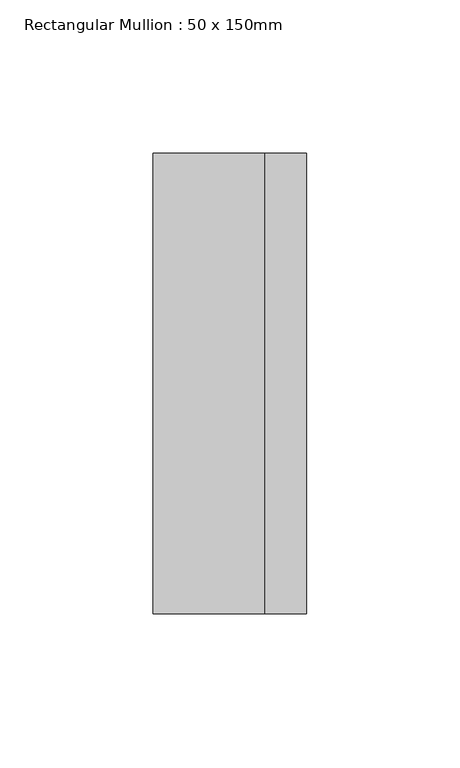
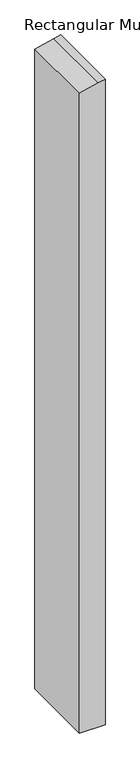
"""IFC4 building model written with IfcOpenShell, lengths in millimetres: member geometry, Rectangular Mullion : 50 x 150mm."""

from ifc_helpers import new_model, si_unit, frame, origin, place, context, project, spatial, polyline, outline, extrude, source, transform, mapped, element, save


def rectangular_mullion_50_x_150mm_8681f68f(model_context):
    return source(origin(), model_context, "Body", "SweptSolid", [
        extrude(outline(polyline([(-45.4880193, 25.0), (-48.6748048, 11.4351816), (-57.2345292, -25.0), (-1374.5304776, -25.0), (-1374.5304776, 25.0), (-45.4880193, 25.0)])), frame((0.0, -75.0, 0.0), z_axis=(0.0, 1.0, 0.0), x_axis=(0.0, 0.0, 1.0)), (0.0, 0.0, 1.0), 150.0),
    ])


if __name__ == "__main__":
    model = new_model("IFC4")
    model_context = context("Model", 3, world=origin())
    ifc_project = project(units=[si_unit("LENGTHUNIT", "METRE", prefix="MILLI")], contexts=[model_context])
    site = spatial("IfcSite", under=ifc_project)
    building = spatial("IfcBuilding", under=site)
    placement = place(None, origin())
    rectangular_mullion_50_x_150mm_shape = rectangular_mullion_50_x_150mm_8681f68f(model_context)
    element("IfcMember", 1, ObjectType="Rectangular Mullion : 50 x 150mm", at=placement, inside=building, context=model_context, shape_type="MappedRepresentation", body=[
        mapped(rectangular_mullion_50_x_150mm_shape, transform((0.0, 0.0, 0.0), x_axis=(1.0, 0.0, 0.0), y_axis=(0.0, 1.0, 0.0), z_axis=(0.0, 0.0, 1.0))),
    ])
    save(model, "model.ifc")
